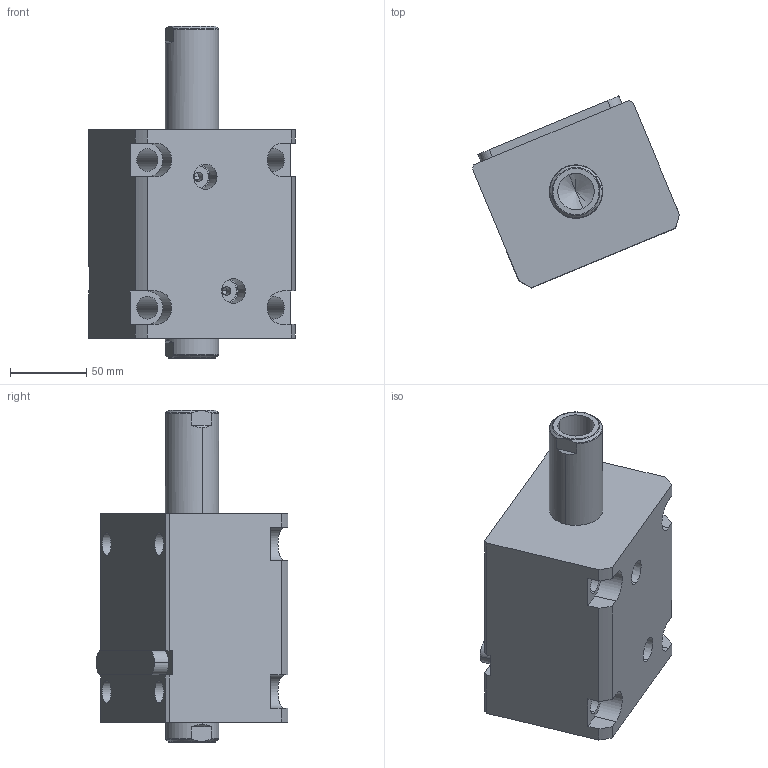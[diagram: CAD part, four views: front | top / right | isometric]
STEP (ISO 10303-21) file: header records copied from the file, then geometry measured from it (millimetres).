
FILE_DESCRIPTION (( 'STEP AP214' ), '1' );
FILE_NAME ('chtb-lw63x55n_asm.STEP', '2018-05-03T07:42:32', ( 'Windows' ), ( 'Microsoft' ), 'SwSTEP 2.0', 'SolidWorks 2015', '' );
FILE_SCHEMA (( 'AUTOMOTIVE_DESIGN' ));
Length unit declared in the file: millimetre
Products named in the file (5): CHTB-SW63X55NHSG; CHTB-LW63X55NBT; CHTB-LA63PJ; CHTB-63QG; chtb-lw63x55n_asm
Assembly tree (4 placements, depth 2):
  chtb-lw63x55n_asm
    CHTB-63QG
    CHTB-LA63PJ
    CHTB-LW63X55NBT
    CHTB-SW63X55NHSG
Bounding box: 135.77 x 126.06 x 218 mm (x, y, z)
Volume: 1247897.5 mm3; surface area: 175452.5 mm2
Topology: 4 solids, 4 shells, 194 faces, 563 edges, 381 vertices
Faces by surface type: cylinder 104, plane 50, cone 16, bspline 12, torus 12
Entity records: 18887 total; most frequent: CARTESIAN_POINT 13868, ORIENTED_EDGE 1110, DIRECTION 876, EDGE_CURVE 555, VERTEX_POINT 381, AXIS2_PLACEMENT_3D 336, EDGE_LOOP 222, LINE 204
